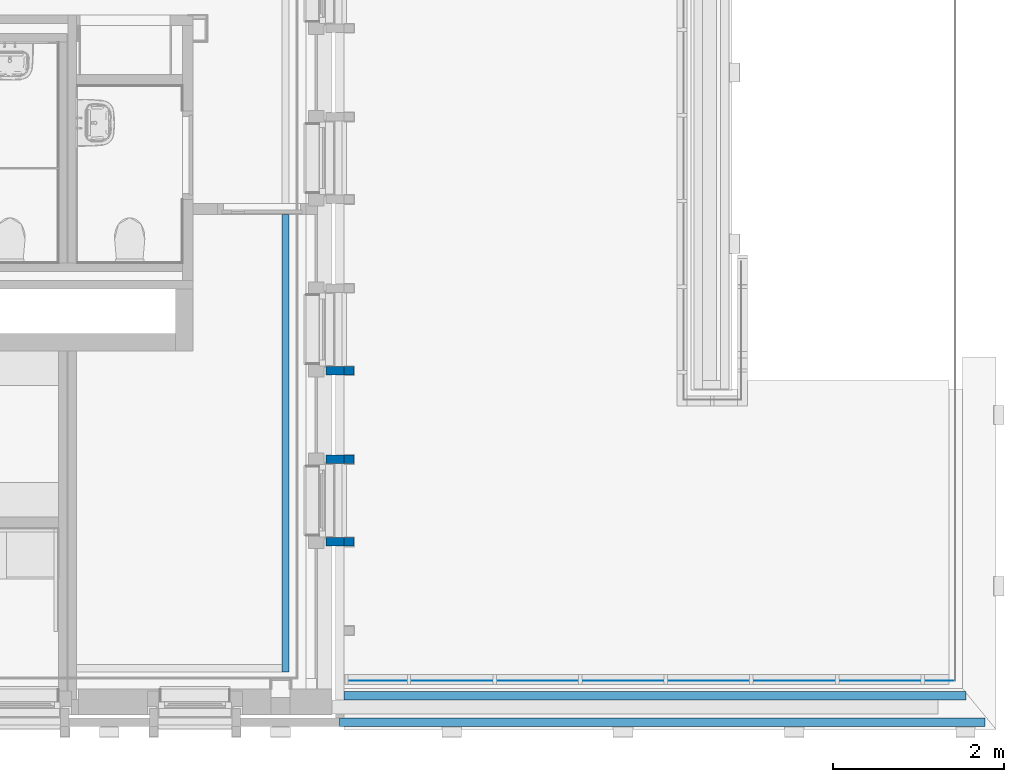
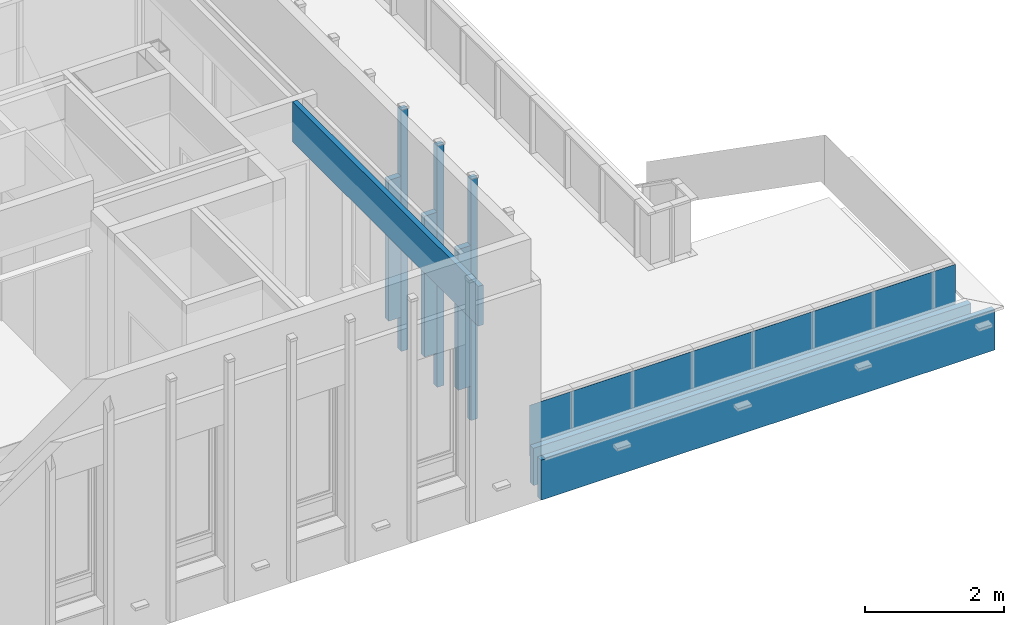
# One storey, part 42 of 118: 10 walls, 12 openings.
"""IFC2X3 building model written with IfcOpenShell, lengths in millimetres."""

from ifc_helpers import new_model, entity, si_unit, converted_unit, derived_unit, direction, frame, frame_2d, origin, place, context, subcontext, project, spatial, rectangle, extrude, faceted_brep, material, layer, layer_set, layer_usage, type_object, element, save


model = new_model("IFC2X3")

# Units and contexts
model_context = context("Model", 3, precision=0.01, world=origin(), true_north=direction((6.123031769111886e-17, 1.0)))
plan_context = context("Plan", 3, precision=0.01, world=origin(), true_north=direction((6.123031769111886e-17, 1.0)))
body_context = subcontext(model_context, "Body", "Model", "MODEL_VIEW")
ifc_project = project(units=[si_unit("LENGTHUNIT", "METRE", prefix="MILLI"), si_unit("AREAUNIT", "SQUARE_METRE"), si_unit("VOLUMEUNIT", "CUBIC_METRE"), converted_unit("PLANEANGLEUNIT", "DEGREE", entity("IfcRatioMeasure", 0.017453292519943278), si_unit("PLANEANGLEUNIT", "RADIAN"), dimensions=[0, 0, 0, 0, 0, 0, 0]), si_unit("MASSUNIT", "GRAM", prefix="KILO"), derived_unit("MASSDENSITYUNIT", [(si_unit("MASSUNIT", "GRAM", prefix="KILO"), 1), (si_unit("LENGTHUNIT", "METRE"), -3)]), derived_unit("IONCONCENTRATIONUNIT", [(si_unit("MASSUNIT", "GRAM", prefix="KILO"), 1), (si_unit("LENGTHUNIT", "METRE"), -3)]), derived_unit("MOMENTOFINERTIAUNIT", [(si_unit("LENGTHUNIT", "METRE"), 4)]), si_unit("TIMEUNIT", "SECOND"), si_unit("FREQUENCYUNIT", "HERTZ"), si_unit("THERMODYNAMICTEMPERATUREUNIT", "DEGREE_CELSIUS"), derived_unit("THERMALTRANSMITTANCEUNIT", [(si_unit("MASSUNIT", "GRAM", prefix="KILO"), 1), (si_unit("THERMODYNAMICTEMPERATUREUNIT", "KELVIN"), -1), (si_unit("TIMEUNIT", "SECOND"), -3)]), derived_unit("THERMALCONDUCTANCEUNIT", [(si_unit("MASSUNIT", "GRAM", prefix="KILO"), 1), (si_unit("THERMODYNAMICTEMPERATUREUNIT", "KELVIN"), -1), (si_unit("TIMEUNIT", "SECOND"), -3), (si_unit("LENGTHUNIT", "METRE"), 1)]), derived_unit("VOLUMETRICFLOWRATEUNIT", [(si_unit("LENGTHUNIT", "METRE"), 3), (si_unit("TIMEUNIT", "SECOND"), -1)]), derived_unit("MASSFLOWRATEUNIT", [(si_unit("MASSUNIT", "GRAM", prefix="KILO"), 1), (si_unit("TIMEUNIT", "SECOND"), -1)]), derived_unit("ROTATIONALFREQUENCYUNIT", [(si_unit("TIMEUNIT", "SECOND"), -1)]), si_unit("ELECTRICCURRENTUNIT", "AMPERE"), si_unit("ELECTRICVOLTAGEUNIT", "VOLT"), si_unit("POWERUNIT", "WATT"), si_unit("FORCEUNIT", "NEWTON", prefix="KILO"), si_unit("ILLUMINANCEUNIT", "LUX"), si_unit("LUMINOUSFLUXUNIT", "LUMEN"), si_unit("LUMINOUSINTENSITYUNIT", "CANDELA"), derived_unit("USERDEFINED", [(si_unit("MASSUNIT", "GRAM", prefix="KILO"), -1), (si_unit("LENGTHUNIT", "METRE"), -2), (si_unit("TIMEUNIT", "SECOND"), 3), (si_unit("LUMINOUSFLUXUNIT", "LUMEN"), 1)]), derived_unit("USERDEFINED", [(si_unit("MASSUNIT", "GRAM", prefix="KILO"), 1), (si_unit("TIMEUNIT", "SECOND"), -3), (si_unit("LENGTHUNIT", "METRE"), 3), (si_unit("ELECTRICCURRENTUNIT", "AMPERE"), -2)]), derived_unit("SOUNDPOWERUNIT", [(si_unit("MASSUNIT", "GRAM", prefix="KILO"), 1), (si_unit("TIMEUNIT", "SECOND"), -3), (si_unit("LENGTHUNIT", "METRE"), 2)]), derived_unit("SOUNDPRESSUREUNIT", [(si_unit("MASSUNIT", "GRAM", prefix="KILO"), 1), (si_unit("LENGTHUNIT", "METRE"), -1), (si_unit("TIMEUNIT", "SECOND"), -2)]), derived_unit("LINEARVELOCITYUNIT", [(si_unit("LENGTHUNIT", "METRE"), 1), (si_unit("TIMEUNIT", "SECOND"), -1)]), si_unit("PRESSUREUNIT", "PASCAL"), derived_unit("USERDEFINED", [(si_unit("MASSUNIT", "GRAM", prefix="KILO"), 1), (si_unit("LENGTHUNIT", "METRE"), -2), (si_unit("TIMEUNIT", "SECOND"), -2)]), derived_unit("LINEARFORCEUNIT", [(si_unit("MASSUNIT", "GRAM", prefix="KILO"), 1), (si_unit("TIMEUNIT", "SECOND"), -2)]), derived_unit("PLANARFORCEUNIT", [(si_unit("MASSUNIT", "GRAM", prefix="KILO"), 1), (si_unit("LENGTHUNIT", "METRE"), -1), (si_unit("TIMEUNIT", "SECOND"), -2)]), derived_unit("SPECIFICHEATCAPACITYUNIT", [(si_unit("THERMODYNAMICTEMPERATUREUNIT", "KELVIN"), -1), (si_unit("LENGTHUNIT", "METRE"), 2), (si_unit("TIMEUNIT", "SECOND"), -2)]), derived_unit("HEATINGVALUEUNIT", [(si_unit("LENGTHUNIT", "METRE"), 2), (si_unit("TIMEUNIT", "SECOND"), -2)]), derived_unit("VAPORPERMEABILITYUNIT", [(si_unit("LENGTHUNIT", "METRE"), -1), (si_unit("TIMEUNIT", "SECOND"), 1)]), derived_unit("DYNAMICVISCOSITYUNIT", [(si_unit("MASSUNIT", "GRAM", prefix="KILO"), 1), (si_unit("TIMEUNIT", "SECOND"), -1), (si_unit("LENGTHUNIT", "METRE"), -1)]), derived_unit("THERMALEXPANSIONCOEFFICIENTUNIT", [(si_unit("THERMODYNAMICTEMPERATUREUNIT", "KELVIN"), -1)]), derived_unit("MODULUSOFELASTICITYUNIT", [(si_unit("MASSUNIT", "GRAM", prefix="KILO"), 1), (si_unit("LENGTHUNIT", "METRE"), -1), (si_unit("TIMEUNIT", "SECOND"), -2)]), derived_unit("ISOTHERMALMOISTURECAPACITYUNIT", [(si_unit("LENGTHUNIT", "METRE"), 3), (si_unit("MASSUNIT", "GRAM", prefix="KILO"), -1)]), derived_unit("MOISTUREDIFFUSIVITYUNIT", [(si_unit("TIMEUNIT", "SECOND"), -1), (si_unit("LENGTHUNIT", "METRE"), 2)])], contexts=[model_context, plan_context])

# Site, building, storey
site_placement = place(None, origin())
site = spatial("IfcSite", under=ifc_project, at=site_placement, Name="Locatie", CompositionType="ELEMENT")
building_placement = place(site_placement, origin())
building = spatial("IfcBuilding", under=site, at=building_placement, Name="Bouwwerk", CompositionType="ELEMENT")
storey_placement = place(building_placement, frame((0.0, 0.0, 7800.0)))
storey = spatial("IfcBuildingStorey", under=building, at=storey_placement, Name="02 tweede verdieping", CompositionType="ELEMENT", Elevation=7800.000000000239)

# Walls
ifc_material_1 = material(Name="g2_metselwerk_geel licht")
ifc_layer_1 = layer(ifc_material_1, 100.0)
ifc_layer_set_1 = layer_set([ifc_layer_1], Name="Basic Wall:21_WA_metselwerk_licht_100_gen_bdg")
ifc_layer_usage_1 = layer_usage(ifc_layer_set_1, "AXIS2", "NEGATIVE", 50.0)
wall_type_1 = type_object("IfcWallType", Name="Basic Wall:21_WA_metselwerk_licht_100_gen_bdg", PredefinedType="STANDARD", material=ifc_layer_set_1)
wall_1_placement = place(storey_placement, frame((34830.0, 11718.0, 603.0)))
element("IfcWallStandardCase", 1, at=wall_1_placement, inside=storey, type_object=wall_type_1, material=ifc_layer_usage_1, Name="Basic Wall:21_WA_metselwerk_licht_100_gen_bdg", ObjectType="Basic Wall:21_WA_metselwerk_licht_100_gen_bdg", context=body_context, shape_type="SweptSolid", body=[
    extrude(rectangle(XDim=210.00000000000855, YDim=99.99999999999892, at=frame_2d((105.00000000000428, 1.4210854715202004e-13), x_axis=(-1.0, 0.0))), origin(), (0.0, 0.0, 1.0), 2471.999999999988),
])
wall_2_placement = place(storey_placement, frame((35040.0, 11718.0, 0.0)))
element("IfcWallStandardCase", 2, at=wall_2_placement, inside=storey, type_object=wall_type_1, material=ifc_layer_usage_1, Name="Basic Wall:21_WA_metselwerk_licht_100_gen_bdg", ObjectType="Basic Wall:21_WA_metselwerk_licht_100_gen_bdg", context=body_context, shape_type="SweptSolid", body=[
    extrude(rectangle(XDim=114.99999999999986, YDim=99.99999999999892, at=frame_2d((57.49999999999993, 6.679101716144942e-13), x_axis=(-1.0, 0.0))), origin(), (0.0, 0.0, 1.0), 4232.000000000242),
])
ifc_layer_usage_2 = layer_usage(ifc_layer_set_1, "AXIS2", "POSITIVE", -50.0)
wall_3_placement = place(storey_placement, frame((34830.0, 12682.0, 603.0)))
element("IfcWallStandardCase", 3, at=wall_3_placement, inside=storey, type_object=wall_type_1, material=ifc_layer_usage_2, Name="Basic Wall:21_WA_metselwerk_licht_100_gen_bdg", ObjectType="Basic Wall:21_WA_metselwerk_licht_100_gen_bdg", context=body_context, shape_type="SweptSolid", body=[
    extrude(rectangle(XDim=210.00000000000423, YDim=99.99999999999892, at=frame_2d((105.00000000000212, 5.435651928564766e-13), x_axis=(-1.0, 0.0))), origin(), (0.0, 0.0, 1.0), 2471.999999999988),
])
wall_4_placement = place(storey_placement, frame((35040.0, 12682.0, 0.0)))
element("IfcWallStandardCase", 4, at=wall_4_placement, inside=storey, type_object=wall_type_1, material=ifc_layer_usage_2, Name="Basic Wall:21_WA_metselwerk_licht_100_gen_bdg", ObjectType="Basic Wall:21_WA_metselwerk_licht_100_gen_bdg", context=body_context, shape_type="SweptSolid", body=[
    extrude(rectangle(XDim=114.99999999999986, YDim=99.99999999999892, at=frame_2d((57.49999999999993, 6.679101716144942e-13), x_axis=(-1.0, 0.0))), origin(), (0.0, 0.0, 1.0), 4231.99999999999),
])
wall_5_placement = place(storey_placement, frame((34830.0, 13718.0, 603.0)))
element("IfcWallStandardCase", 5, at=wall_5_placement, inside=storey, type_object=wall_type_1, material=ifc_layer_usage_1, Name="Basic Wall:21_WA_metselwerk_licht_100_gen_bdg", ObjectType="Basic Wall:21_WA_metselwerk_licht_100_gen_bdg", context=body_context, shape_type="SweptSolid", body=[
    extrude(rectangle(XDim=210.00000000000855, YDim=99.99999999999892, at=frame_2d((105.00000000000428, 1.4210854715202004e-13), x_axis=(-1.0, 0.0))), origin(), (0.0, 0.0, 1.0), 2471.999999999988),
])
wall_6_placement = place(storey_placement, frame((35040.0, 13718.0, 0.0)))
element("IfcWallStandardCase", 6, at=wall_6_placement, inside=storey, type_object=wall_type_1, material=ifc_layer_usage_1, Name="Basic Wall:21_WA_metselwerk_licht_100_gen_bdg", ObjectType="Basic Wall:21_WA_metselwerk_licht_100_gen_bdg", context=body_context, shape_type="SweptSolid", body=[
    extrude(rectangle(XDim=114.99999999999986, YDim=99.99999999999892, at=frame_2d((57.49999999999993, 6.679101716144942e-13), x_axis=(-1.0, 0.0))), origin(), (0.0, 0.0, 1.0), 4232.000000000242),
])

# Wall, openings
wall_7_placement = place(storey_placement, frame((42525.0, 9610.0, -100.0), z_axis=(0.0, 0.0, 1.0), x_axis=(-1.0, 0.0, 0.0)))
wall_7 = element("IfcWallStandardCase", 7, at=wall_7_placement, inside=storey, type_object=wall_type_1, material=ifc_layer_usage_1, Name="Basic Wall:21_WA_metselwerk_licht_100_gen_bdg", ObjectType="Basic Wall:21_WA_metselwerk_licht_100_gen_bdg", context=body_context, shape_type="SweptSolid", body=[
    extrude(rectangle(XDim=7535.000000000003, YDim=100.0000000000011, at=frame_2d((3767.5000000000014, 2.0250467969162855e-13), x_axis=(-1.0, 0.0))), origin(), (0.0, 0.0, 1.0), 702.9999999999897),
])
opening_1_placement = place(wall_7_placement, frame((15781.0, 50.0, 703.0)))
element("IfcOpeningElement", 8, at=opening_1_placement, cuts=wall_7, Name="Basic Wall:21_WA_metselwerk_licht_100_gen_bdg", ObjectType="Opening", context=body_context, shape_type="Brep", body=[
    faceted_brep([(-24.0, -100.0, 2472.0), (-103.0, -100.0, 2472.0), (-103.0, -100.0, 42.0), (-1009.0, -100.0, 42.0), (-1009.0, -100.0, 2472.0), (-1088.0, -100.0, 2472.0), (-1088.0, -100.0, 0.0), (-24.0, -100.0, 0.0), (-1088.0, 0.0, 2472.0), (-24.0, 0.0, 2472.0), (-24.0, 0.0, 0.0), (-1088.0, 0.0, 0.0), (-1112.0, -415.0, 2594.0), (-1112.0, -415.0, 11.0), (0.0, -415.0, 11.0), (0.0, -415.0, 2594.0), (-964.0, -415.0, 2443.0), (-148.0, -415.0, 2443.0), (-148.0, -415.0, 87.0), (-964.0, -415.0, 87.0), (-1112.0, -140.0, 2594.0), (0.0, -140.0, 2594.0), (0.0, -140.0, 11.0), (-1112.0, -140.0, 11.0), (-1009.0, -140.0, 42.0), (-103.0, -140.0, 42.0), (-103.0, -140.0, 2508.0), (-1009.0, -140.0, 2508.0), (-103.0, -100.0, 2508.0), (-1009.0, -100.0, 2508.0), (-964.0, -615.0, 2443.0), (-964.0, -615.0, 87.0), (-148.0, -615.0, 87.0), (-148.0, -615.0, 2443.0)], [[[0, 1, 2, 3, 4, 5, 6, 7]], [[8, 9, 10, 11]], [[5, 8, 11, 6]], [[6, 11, 10, 7]], [[7, 10, 9, 0]], [[8, 5, 4, 1, 0, 9]], [[12, 13, 14, 15], [16, 17, 18, 19]], [[20, 21, 22, 23], [24, 25, 26, 27]], [[12, 20, 23, 13]], [[13, 23, 22, 14]], [[14, 22, 21, 15]], [[15, 21, 20, 12]], [[28, 1, 4, 29]], [[24, 27, 29, 4, 3]], [[3, 2, 25, 24]], [[2, 1, 28, 26, 25]], [[29, 27, 26, 28]], [[30, 31, 32, 33]], [[30, 16, 19, 31]], [[31, 19, 18, 32]], [[32, 18, 17, 33]], [[33, 17, 16, 30]]]),
])
opening_2_placement = place(wall_7_placement, frame((17781.0, 50.0, 703.0)))
element("IfcOpeningElement", 9, at=opening_2_placement, cuts=wall_7, Name="Basic Wall:21_WA_metselwerk_licht_100_gen_bdg", ObjectType="Opening", context=body_context, shape_type="Brep", body=[
    faceted_brep([(-24.0, -100.0, 2472.0), (-103.0, -100.0, 2472.0), (-103.0, -100.0, 42.0), (-1009.0, -100.0, 42.0), (-1009.0, -100.0, 2472.0), (-1088.0, -100.0, 2472.0), (-1088.0, -100.0, 0.0), (-24.0, -100.0, 0.0), (-1088.0, 0.0, 2472.0), (-24.0, 0.0, 2472.0), (-24.0, 0.0, 0.0), (-1088.0, 0.0, 0.0), (-1112.0, -415.0, 2594.0), (-1112.0, -415.0, 11.0), (0.0, -415.0, 11.0), (0.0, -415.0, 2594.0), (-964.0, -415.0, 2443.0), (-148.0, -415.0, 2443.0), (-148.0, -415.0, 87.0), (-964.0, -415.0, 87.0), (-1112.0, -140.0, 2594.0), (0.0, -140.0, 2594.0), (0.0, -140.0, 11.0), (-1112.0, -140.0, 11.0), (-1009.0, -140.0, 42.0), (-103.0, -140.0, 42.0), (-103.0, -140.0, 2508.0), (-1009.0, -140.0, 2508.0), (-103.0, -100.0, 2508.0), (-1009.0, -100.0, 2508.0), (-964.0, -615.0, 2443.0), (-964.0, -615.0, 87.0), (-148.0, -615.0, 87.0), (-148.0, -615.0, 2443.0)], [[[0, 1, 2, 3, 4, 5, 6, 7]], [[8, 9, 10, 11]], [[5, 8, 11, 6]], [[6, 11, 10, 7]], [[7, 10, 9, 0]], [[8, 5, 4, 1, 0, 9]], [[12, 13, 14, 15], [16, 17, 18, 19]], [[20, 21, 22, 23], [24, 25, 26, 27]], [[12, 20, 23, 13]], [[13, 23, 22, 14]], [[14, 22, 21, 15]], [[15, 21, 20, 12]], [[28, 1, 4, 29]], [[24, 27, 29, 4, 3]], [[3, 2, 25, 24]], [[2, 1, 28, 26, 25]], [[29, 27, 26, 28]], [[30, 31, 32, 33]], [[30, 16, 19, 31]], [[31, 19, 18, 32]], [[32, 18, 17, 33]], [[33, 17, 16, 30]]]),
])
opening_3_placement = place(wall_7_placement, frame((19781.0, 50.0, 703.0)))
element("IfcOpeningElement", 10, at=opening_3_placement, cuts=wall_7, Name="Basic Wall:21_WA_metselwerk_licht_100_gen_bdg", ObjectType="Opening", context=body_context, shape_type="Brep", body=[
    faceted_brep([(-24.0, -100.0, 2472.0), (-103.0, -100.0, 2472.0), (-103.0, -100.0, 42.0), (-1009.0, -100.0, 42.0), (-1009.0, -100.0, 2472.0), (-1088.0, -100.0, 2472.0), (-1088.0, -100.0, 0.0), (-24.0, -100.0, 0.0), (-1088.0, 0.0, 2472.0), (-24.0, 0.0, 2472.0), (-24.0, 0.0, 0.0), (-1088.0, 0.0, 0.0), (-1112.0, -415.0, 2594.0), (-1112.0, -415.0, 11.0), (0.0, -415.0, 11.0), (0.0, -415.0, 2594.0), (-964.0, -415.0, 2443.0), (-148.0, -415.0, 2443.0), (-148.0, -415.0, 87.0), (-964.0, -415.0, 87.0), (-1112.0, -140.0, 2594.0), (0.0, -140.0, 2594.0), (0.0, -140.0, 11.0), (-1112.0, -140.0, 11.0), (-1009.0, -140.0, 42.0), (-103.0, -140.0, 42.0), (-103.0, -140.0, 2508.0), (-1009.0, -140.0, 2508.0), (-103.0, -100.0, 2508.0), (-1009.0, -100.0, 2508.0), (-964.0, -615.0, 2443.0), (-964.0, -615.0, 87.0), (-148.0, -615.0, 87.0), (-148.0, -615.0, 2443.0)], [[[0, 1, 2, 3, 4, 5, 6, 7]], [[8, 9, 10, 11]], [[5, 8, 11, 6]], [[6, 11, 10, 7]], [[7, 10, 9, 0]], [[8, 5, 4, 1, 0, 9]], [[12, 13, 14, 15], [16, 17, 18, 19]], [[20, 21, 22, 23], [24, 25, 26, 27]], [[12, 20, 23, 13]], [[13, 23, 22, 14]], [[14, 22, 21, 15]], [[15, 21, 20, 12]], [[28, 1, 4, 29]], [[24, 27, 29, 4, 3]], [[3, 2, 25, 24]], [[2, 1, 28, 26, 25]], [[29, 27, 26, 28]], [[30, 31, 32, 33]], [[30, 16, 19, 31]], [[31, 19, 18, 32]], [[32, 18, 17, 33]], [[33, 17, 16, 30]]]),
])
opening_4_placement = place(wall_7_placement, frame((9781.0, 50.0, 703.0)))
element("IfcOpeningElement", 11, at=opening_4_placement, cuts=wall_7, Name="Basic Wall:21_WA_metselwerk_licht_100_gen_bdg", ObjectType="Opening", context=body_context, shape_type="Brep", body=[
    faceted_brep([(-24.0, -100.0, 2472.0), (-103.0, -100.0, 2472.0), (-103.0, -100.0, 42.0), (-1009.0, -100.0, 42.0), (-1009.0, -100.0, 2472.0), (-1088.0, -100.0, 2472.0), (-1088.0, -100.0, 0.0), (-24.0, -100.0, 0.0), (-1088.0, 0.0, 2472.0), (-24.0, 0.0, 2472.0), (-24.0, 0.0, 0.0), (-1088.0, 0.0, 0.0), (-1112.0, -415.0, 2594.0), (-1112.0, -415.0, 11.0), (0.0, -415.0, 11.0), (0.0, -415.0, 2594.0), (-964.0, -415.0, 2443.0), (-148.0, -415.0, 2443.0), (-148.0, -415.0, 87.0), (-964.0, -415.0, 87.0), (-1112.0, -140.0, 2594.0), (0.0, -140.0, 2594.0), (0.0, -140.0, 11.0), (-1112.0, -140.0, 11.0), (-1009.0, -140.0, 42.0), (-103.0, -140.0, 42.0), (-103.0, -140.0, 2508.0), (-1009.0, -140.0, 2508.0), (-103.0, -100.0, 2508.0), (-1009.0, -100.0, 2508.0), (-964.0, -615.0, 2443.0), (-964.0, -615.0, 87.0), (-148.0, -615.0, 87.0), (-148.0, -615.0, 2443.0)], [[[0, 1, 2, 3, 4, 5, 6, 7]], [[8, 9, 10, 11]], [[5, 8, 11, 6]], [[6, 11, 10, 7]], [[7, 10, 9, 0]], [[8, 5, 4, 1, 0, 9]], [[12, 13, 14, 15], [16, 17, 18, 19]], [[20, 21, 22, 23], [24, 25, 26, 27]], [[12, 20, 23, 13]], [[13, 23, 22, 14]], [[14, 22, 21, 15]], [[15, 21, 20, 12]], [[28, 1, 4, 29]], [[24, 27, 29, 4, 3]], [[3, 2, 25, 24]], [[2, 1, 28, 26, 25]], [[29, 27, 26, 28]], [[30, 31, 32, 33]], [[30, 16, 19, 31]], [[31, 19, 18, 32]], [[32, 18, 17, 33]], [[33, 17, 16, 30]]]),
])
opening_5_placement = place(wall_7_placement, frame((11781.0, 50.0, 703.0)))
element("IfcOpeningElement", 12, at=opening_5_placement, cuts=wall_7, Name="Basic Wall:21_WA_metselwerk_licht_100_gen_bdg", ObjectType="Opening", context=body_context, shape_type="Brep", body=[
    faceted_brep([(-24.0, -100.0, 2472.0), (-103.0, -100.0, 2472.0), (-103.0, -100.0, 42.0), (-1009.0, -100.0, 42.0), (-1009.0, -100.0, 2472.0), (-1088.0, -100.0, 2472.0), (-1088.0, -100.0, 0.0), (-24.0, -100.0, 0.0), (-1088.0, 0.0, 2472.0), (-24.0, 0.0, 2472.0), (-24.0, 0.0, 0.0), (-1088.0, 0.0, 0.0), (-1112.0, -415.0, 2594.0), (-1112.0, -415.0, 11.0), (0.0, -415.0, 11.0), (0.0, -415.0, 2594.0), (-964.0, -415.0, 2443.0), (-148.0, -415.0, 2443.0), (-148.0, -415.0, 87.0), (-964.0, -415.0, 87.0), (-1112.0, -140.0, 2594.0), (0.0, -140.0, 2594.0), (0.0, -140.0, 11.0), (-1112.0, -140.0, 11.0), (-1009.0, -140.0, 42.0), (-103.0, -140.0, 42.0), (-103.0, -140.0, 2508.0), (-1009.0, -140.0, 2508.0), (-103.0, -100.0, 2508.0), (-1009.0, -100.0, 2508.0), (-964.0, -615.0, 2443.0), (-964.0, -615.0, 87.0), (-148.0, -615.0, 87.0), (-148.0, -615.0, 2443.0)], [[[0, 1, 2, 3, 4, 5, 6, 7]], [[8, 9, 10, 11]], [[5, 8, 11, 6]], [[6, 11, 10, 7]], [[7, 10, 9, 0]], [[8, 5, 4, 1, 0, 9]], [[12, 13, 14, 15], [16, 17, 18, 19]], [[20, 21, 22, 23], [24, 25, 26, 27]], [[12, 20, 23, 13]], [[13, 23, 22, 14]], [[14, 22, 21, 15]], [[15, 21, 20, 12]], [[28, 1, 4, 29]], [[24, 27, 29, 4, 3]], [[3, 2, 25, 24]], [[2, 1, 28, 26, 25]], [[29, 27, 26, 28]], [[30, 31, 32, 33]], [[30, 16, 19, 31]], [[31, 19, 18, 32]], [[32, 18, 17, 33]], [[33, 17, 16, 30]]]),
])
opening_6_placement = place(wall_7_placement, frame((13781.0, 50.0, 703.0)))
element("IfcOpeningElement", 13, at=opening_6_placement, cuts=wall_7, Name="Basic Wall:21_WA_metselwerk_licht_100_gen_bdg", ObjectType="Opening", context=body_context, shape_type="Brep", body=[
    faceted_brep([(-24.0, -100.0, 2472.0), (-103.0, -100.0, 2472.0), (-103.0, -100.0, 42.0), (-1009.0, -100.0, 42.0), (-1009.0, -100.0, 2472.0), (-1088.0, -100.0, 2472.0), (-1088.0, -100.0, 0.0), (-24.0, -100.0, 0.0), (-1088.0, 0.0, 2472.0), (-24.0, 0.0, 2472.0), (-24.0, 0.0, 0.0), (-1088.0, 0.0, 0.0), (-1112.0, -415.0, 2594.0), (-1112.0, -415.0, 11.0), (0.0, -415.0, 11.0), (0.0, -415.0, 2594.0), (-964.0, -415.0, 2443.0), (-148.0, -415.0, 2443.0), (-148.0, -415.0, 87.0), (-964.0, -415.0, 87.0), (-1112.0, -140.0, 2594.0), (0.0, -140.0, 2594.0), (0.0, -140.0, 11.0), (-1112.0, -140.0, 11.0), (-1009.0, -140.0, 42.0), (-103.0, -140.0, 42.0), (-103.0, -140.0, 2508.0), (-1009.0, -140.0, 2508.0), (-103.0, -100.0, 2508.0), (-1009.0, -100.0, 2508.0), (-964.0, -615.0, 2443.0), (-964.0, -615.0, 87.0), (-148.0, -615.0, 87.0), (-148.0, -615.0, 2443.0)], [[[0, 1, 2, 3, 4, 5, 6, 7]], [[8, 9, 10, 11]], [[5, 8, 11, 6]], [[6, 11, 10, 7]], [[7, 10, 9, 0]], [[8, 5, 4, 1, 0, 9]], [[12, 13, 14, 15], [16, 17, 18, 19]], [[20, 21, 22, 23], [24, 25, 26, 27]], [[12, 20, 23, 13]], [[13, 23, 22, 14]], [[14, 22, 21, 15]], [[15, 21, 20, 12]], [[28, 1, 4, 29]], [[24, 27, 29, 4, 3]], [[3, 2, 25, 24]], [[2, 1, 28, 26, 25]], [[29, 27, 26, 28]], [[30, 31, 32, 33]], [[30, 16, 19, 31]], [[31, 19, 18, 32]], [[32, 18, 17, 33]], [[33, 17, 16, 30]]]),
])
opening_7_placement = place(wall_7_placement, frame((21781.0, 50.0, 703.0)))
element("IfcOpeningElement", 14, at=opening_7_placement, cuts=wall_7, Name="Basic Wall:21_WA_metselwerk_licht_100_gen_bdg", ObjectType="Opening", context=body_context, shape_type="Brep", body=[
    faceted_brep([(-24.0, -100.0, 2472.0), (-103.0, -100.0, 2472.0), (-103.0, -100.0, 42.0), (-1009.0, -100.0, 42.0), (-1009.0, -100.0, 2472.0), (-1088.0, -100.0, 2472.0), (-1088.0, -100.0, 0.0), (-24.0, -100.0, 0.0), (-1088.0, 0.0, 2472.0), (-24.0, 0.0, 2472.0), (-24.0, 0.0, 0.0), (-1088.0, 0.0, 0.0), (-1112.0, -415.0, 2594.0), (-1112.0, -415.0, 11.0), (0.0, -415.0, 11.0), (0.0, -415.0, 2594.0), (-964.0, -415.0, 2443.0), (-148.0, -415.0, 2443.0), (-148.0, -415.0, 87.0), (-964.0, -415.0, 87.0), (-1112.0, -140.0, 2594.0), (0.0, -140.0, 2594.0), (0.0, -140.0, 11.0), (-1112.0, -140.0, 11.0), (-1009.0, -140.0, 42.0), (-103.0, -140.0, 42.0), (-103.0, -140.0, 2508.0), (-1009.0, -140.0, 2508.0), (-103.0, -100.0, 2508.0), (-1009.0, -100.0, 2508.0), (-964.0, -615.0, 2443.0), (-964.0, -615.0, 87.0), (-148.0, -615.0, 87.0), (-148.0, -615.0, 2443.0)], [[[0, 1, 2, 3, 4, 5, 6, 7]], [[8, 9, 10, 11]], [[5, 8, 11, 6]], [[6, 11, 10, 7]], [[7, 10, 9, 0]], [[8, 5, 4, 1, 0, 9]], [[12, 13, 14, 15], [16, 17, 18, 19]], [[20, 21, 22, 23], [24, 25, 26, 27]], [[12, 20, 23, 13]], [[13, 23, 22, 14]], [[14, 22, 21, 15]], [[15, 21, 20, 12]], [[28, 1, 4, 29]], [[24, 27, 29, 4, 3]], [[3, 2, 25, 24]], [[2, 1, 28, 26, 25]], [[29, 27, 26, 28]], [[30, 31, 32, 33]], [[30, 16, 19, 31]], [[31, 19, 18, 32]], [[32, 18, 17, 33]], [[33, 17, 16, 30]]]),
])
opening_8_placement = place(wall_7_placement, frame((23781.0, 50.0, 703.0)))
element("IfcOpeningElement", 15, at=opening_8_placement, cuts=wall_7, Name="Basic Wall:21_WA_metselwerk_licht_100_gen_bdg", ObjectType="Opening", context=body_context, shape_type="Brep", body=[
    faceted_brep([(-24.0, -100.0, 2472.0), (-103.0, -100.0, 2472.0), (-103.0, -100.0, 42.0), (-1009.0, -100.0, 42.0), (-1009.0, -100.0, 2472.0), (-1088.0, -100.0, 2472.0), (-1088.0, -100.0, 0.0), (-24.0, -100.0, 0.0), (-1088.0, 0.0, 2472.0), (-24.0, 0.0, 2472.0), (-24.0, 0.0, 0.0), (-1088.0, 0.0, 0.0), (-1112.0, -415.0, 2594.0), (-1112.0, -415.0, 11.0), (0.0, -415.0, 11.0), (0.0, -415.0, 2594.0), (-964.0, -415.0, 2443.0), (-148.0, -415.0, 2443.0), (-148.0, -415.0, 87.0), (-964.0, -415.0, 87.0), (-1112.0, -140.0, 2594.0), (0.0, -140.0, 2594.0), (0.0, -140.0, 11.0), (-1112.0, -140.0, 11.0), (-1009.0, -140.0, 42.0), (-103.0, -140.0, 42.0), (-103.0, -140.0, 2508.0), (-1009.0, -140.0, 2508.0), (-103.0, -100.0, 2508.0), (-1009.0, -100.0, 2508.0), (-964.0, -615.0, 2443.0), (-964.0, -615.0, 87.0), (-148.0, -615.0, 87.0), (-148.0, -615.0, 2443.0)], [[[0, 1, 2, 3, 4, 5, 6, 7]], [[8, 9, 10, 11]], [[5, 8, 11, 6]], [[6, 11, 10, 7]], [[7, 10, 9, 0]], [[8, 5, 4, 1, 0, 9]], [[12, 13, 14, 15], [16, 17, 18, 19]], [[20, 21, 22, 23], [24, 25, 26, 27]], [[12, 20, 23, 13]], [[13, 23, 22, 14]], [[14, 22, 21, 15]], [[15, 21, 20, 12]], [[28, 1, 4, 29]], [[24, 27, 29, 4, 3]], [[3, 2, 25, 24]], [[2, 1, 28, 26, 25]], [[29, 27, 26, 28]], [[30, 31, 32, 33]], [[30, 16, 19, 31]], [[31, 19, 18, 32]], [[32, 18, 17, 33]], [[33, 17, 16, 30]]]),
])
opening_9_placement = place(wall_7_placement, frame((25781.0, 50.0, 703.0)))
element("IfcOpeningElement", 16, at=opening_9_placement, cuts=wall_7, Name="Basic Wall:21_WA_metselwerk_licht_100_gen_bdg", ObjectType="Opening", context=body_context, shape_type="Brep", body=[
    faceted_brep([(-24.0, -100.0, 2472.0), (-103.0, -100.0, 2472.0), (-103.0, -100.0, 42.0), (-1009.0, -100.0, 42.0), (-1009.0, -100.0, 2472.0), (-1088.0, -100.0, 2472.0), (-1088.0, -100.0, 0.0), (-24.0, -100.0, 0.0), (-1088.0, 0.0, 2472.0), (-24.0, 0.0, 2472.0), (-24.0, 0.0, 0.0), (-1088.0, 0.0, 0.0), (-1112.0, -415.0, 2594.0), (-1112.0, -415.0, 11.0), (0.0, -415.0, 11.0), (0.0, -415.0, 2594.0), (-964.0, -415.0, 2443.0), (-148.0, -415.0, 2443.0), (-148.0, -415.0, 87.0), (-964.0, -415.0, 87.0), (-1112.0, -140.0, 2594.0), (0.0, -140.0, 2594.0), (0.0, -140.0, 11.0), (-1112.0, -140.0, 11.0), (-1009.0, -140.0, 42.0), (-103.0, -140.0, 42.0), (-103.0, -140.0, 2508.0), (-1009.0, -140.0, 2508.0), (-103.0, -100.0, 2508.0), (-1009.0, -100.0, 2508.0), (-964.0, -615.0, 2443.0), (-964.0, -615.0, 87.0), (-148.0, -615.0, 87.0), (-148.0, -615.0, 2443.0)], [[[0, 1, 2, 3, 4, 5, 6, 7]], [[8, 9, 10, 11]], [[5, 8, 11, 6]], [[6, 11, 10, 7]], [[7, 10, 9, 0]], [[8, 5, 4, 1, 0, 9]], [[12, 13, 14, 15], [16, 17, 18, 19]], [[20, 21, 22, 23], [24, 25, 26, 27]], [[12, 20, 23, 13]], [[13, 23, 22, 14]], [[14, 22, 21, 15]], [[15, 21, 20, 12]], [[28, 1, 4, 29]], [[24, 27, 29, 4, 3]], [[3, 2, 25, 24]], [[2, 1, 28, 26, 25]], [[29, 27, 26, 28]], [[30, 31, 32, 33]], [[30, 16, 19, 31]], [[31, 19, 18, 32]], [[32, 18, 17, 33]], [[33, 17, 16, 30]]]),
])
opening_10_placement = place(wall_7_placement, frame((27781.0, 50.0, 703.0)))
element("IfcOpeningElement", 17, at=opening_10_placement, cuts=wall_7, Name="Basic Wall:21_WA_metselwerk_licht_100_gen_bdg", ObjectType="Opening", context=body_context, shape_type="Brep", body=[
    faceted_brep([(-24.0, -100.0, 2472.0), (-103.0, -100.0, 2472.0), (-103.0, -100.0, 42.0), (-1009.0, -100.0, 42.0), (-1009.0, -100.0, 2472.0), (-1088.0, -100.0, 2472.0), (-1088.0, -100.0, 0.0), (-24.0, -100.0, 0.0), (-1088.0, 0.0, 2472.0), (-24.0, 0.0, 2472.0), (-24.0, 0.0, 0.0), (-1088.0, 0.0, 0.0), (-1112.0, -415.0, 2594.0), (-1112.0, -415.0, 11.0), (0.0, -415.0, 11.0), (0.0, -415.0, 2594.0), (-964.0, -415.0, 2443.0), (-148.0, -415.0, 2443.0), (-148.0, -415.0, 87.0), (-964.0, -415.0, 87.0), (-1112.0, -140.0, 2594.0), (0.0, -140.0, 2594.0), (0.0, -140.0, 11.0), (-1112.0, -140.0, 11.0), (-1009.0, -140.0, 42.0), (-103.0, -140.0, 42.0), (-103.0, -140.0, 2508.0), (-1009.0, -140.0, 2508.0), (-103.0, -100.0, 2508.0), (-1009.0, -100.0, 2508.0), (-964.0, -615.0, 2443.0), (-964.0, -615.0, 87.0), (-148.0, -615.0, 87.0), (-148.0, -615.0, 2443.0)], [[[0, 1, 2, 3, 4, 5, 6, 7]], [[8, 9, 10, 11]], [[5, 8, 11, 6]], [[6, 11, 10, 7]], [[7, 10, 9, 0]], [[8, 5, 4, 1, 0, 9]], [[12, 13, 14, 15], [16, 17, 18, 19]], [[20, 21, 22, 23], [24, 25, 26, 27]], [[12, 20, 23, 13]], [[13, 23, 22, 14]], [[14, 22, 21, 15]], [[15, 21, 20, 12]], [[28, 1, 4, 29]], [[24, 27, 29, 4, 3]], [[3, 2, 25, 24]], [[2, 1, 28, 26, 25]], [[29, 27, 26, 28]], [[30, 31, 32, 33]], [[30, 16, 19, 31]], [[31, 19, 18, 32]], [[32, 18, 17, 33]], [[33, 17, 16, 30]]]),
])
opening_11_placement = place(wall_7_placement, frame((29781.0, 50.0, 703.0)))
element("IfcOpeningElement", 18, at=opening_11_placement, cuts=wall_7, Name="Basic Wall:21_WA_metselwerk_licht_100_gen_bdg", ObjectType="Opening", context=body_context, shape_type="Brep", body=[
    faceted_brep([(-24.0, -100.0, 2472.0), (-103.0, -100.0, 2472.0), (-103.0, -100.0, 42.0), (-1009.0, -100.0, 42.0), (-1009.0, -100.0, 2472.0), (-1088.0, -100.0, 2472.0), (-1088.0, -100.0, 0.0), (-24.0, -100.0, 0.0), (-1088.0, 0.0, 2472.0), (-24.0, 0.0, 2472.0), (-24.0, 0.0, 0.0), (-1088.0, 0.0, 0.0), (-1112.0, -415.0, 2594.0), (-1112.0, -415.0, 11.0), (0.0, -415.0, 11.0), (0.0, -415.0, 2594.0), (-964.0, -415.0, 2443.0), (-148.0, -415.0, 2443.0), (-148.0, -415.0, 87.0), (-964.0, -415.0, 87.0), (-1112.0, -140.0, 2594.0), (0.0, -140.0, 2594.0), (0.0, -140.0, 11.0), (-1112.0, -140.0, 11.0), (-1009.0, -140.0, 42.0), (-103.0, -140.0, 42.0), (-103.0, -140.0, 2508.0), (-1009.0, -140.0, 2508.0), (-103.0, -100.0, 2508.0), (-1009.0, -100.0, 2508.0), (-964.0, -615.0, 2443.0), (-964.0, -615.0, 87.0), (-148.0, -615.0, 87.0), (-148.0, -615.0, 2443.0)], [[[0, 1, 2, 3, 4, 5, 6, 7]], [[8, 9, 10, 11]], [[5, 8, 11, 6]], [[6, 11, 10, 7]], [[7, 10, 9, 0]], [[8, 5, 4, 1, 0, 9]], [[12, 13, 14, 15], [16, 17, 18, 19]], [[20, 21, 22, 23], [24, 25, 26, 27]], [[12, 20, 23, 13]], [[13, 23, 22, 14]], [[14, 22, 21, 15]], [[15, 21, 20, 12]], [[28, 1, 4, 29]], [[24, 27, 29, 4, 3]], [[3, 2, 25, 24]], [[2, 1, 28, 26, 25]], [[29, 27, 26, 28]], [[30, 31, 32, 33]], [[30, 16, 19, 31]], [[31, 19, 18, 32]], [[32, 18, 17, 33]], [[33, 17, 16, 30]]]),
])
opening_12_placement = place(wall_7_placement, frame((31781.0, 50.0, 703.0)))
element("IfcOpeningElement", 19, at=opening_12_placement, cuts=wall_7, Name="Basic Wall:21_WA_metselwerk_licht_100_gen_bdg", ObjectType="Opening", context=body_context, shape_type="Brep", body=[
    faceted_brep([(-24.0, -100.0, 2472.0), (-103.0, -100.0, 2472.0), (-103.0, -100.0, 42.0), (-1009.0, -100.0, 42.0), (-1009.0, -100.0, 2472.0), (-1088.0, -100.0, 2472.0), (-1088.0, -100.0, 0.0), (-24.0, -100.0, 0.0), (-1088.0, 0.0, 2472.0), (-24.0, 0.0, 2472.0), (-24.0, 0.0, 0.0), (-1088.0, 0.0, 0.0), (-1112.0, -415.0, 2594.0), (-1112.0, -415.0, 11.0), (0.0, -415.0, 11.0), (0.0, -415.0, 2594.0), (-964.0, -415.0, 2443.0), (-148.0, -415.0, 2443.0), (-148.0, -415.0, 87.0), (-964.0, -415.0, 87.0), (-1112.0, -140.0, 2594.0), (0.0, -140.0, 2594.0), (0.0, -140.0, 11.0), (-1112.0, -140.0, 11.0), (-1009.0, -140.0, 42.0), (-103.0, -140.0, 42.0), (-103.0, -140.0, 2508.0), (-1009.0, -140.0, 2508.0), (-103.0, -100.0, 2508.0), (-1009.0, -100.0, 2508.0), (-964.0, -615.0, 2443.0), (-964.0, -615.0, 87.0), (-148.0, -615.0, 87.0), (-148.0, -615.0, 2443.0)], [[[0, 1, 2, 3, 4, 5, 6, 7]], [[8, 9, 10, 11]], [[5, 8, 11, 6]], [[6, 11, 10, 7]], [[7, 10, 9, 0]], [[8, 5, 4, 1, 0, 9]], [[12, 13, 14, 15], [16, 17, 18, 19]], [[20, 21, 22, 23], [24, 25, 26, 27]], [[12, 20, 23, 13]], [[13, 23, 22, 14]], [[14, 22, 21, 15]], [[15, 21, 20, 12]], [[28, 1, 4, 29]], [[24, 27, 29, 4, 3]], [[3, 2, 25, 24]], [[2, 1, 28, 26, 25]], [[29, 27, 26, 28]], [[30, 31, 32, 33]], [[30, 16, 19, 31]], [[31, 19, 18, 32]], [[32, 18, 17, 33]], [[33, 17, 16, 30]]]),
])

# Walls
wall_8_placement = place(storey_placement, frame((35040.0, 9920.0, -50.0)))
element("IfcWallStandardCase", 20, at=wall_8_placement, inside=storey, type_object=wall_type_1, material=ifc_layer_usage_1, Name="Basic Wall:21_WA_metselwerk_licht_100_gen_bdg", ObjectType="Basic Wall:21_WA_metselwerk_licht_100_gen_bdg", context=body_context, shape_type="SweptSolid", body=[
    extrude(rectangle(XDim=7264.999999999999, YDim=99.99999999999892, at=frame_2d((3632.4999999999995, 1.3500311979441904e-13), x_axis=(-1.0, 0.0))), origin(), (0.0, 0.0, 1.0), 652.9999999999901),
])
ifc_material_2 = material(Name="f7_gipsvezel")
ifc_layer_2 = layer(ifc_material_2, 13.000000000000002)
ifc_material_3 = material(Name="ISR_Luchtspouw")
ifc_layer_3 = layer(ifc_material_3, 71.0)
ifc_layer_set_2 = layer_set([ifc_layer_2, ifc_layer_3], Name="Basic Wall:22_WA_koof_83 12-71")
ifc_layer_usage_3 = layer_usage(ifc_layer_set_2, "AXIS2", "NEGATIVE", 41.99999999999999)
wall_type_2 = type_object("IfcWallType", Name="Basic Wall:22_WA_koof_83 12-71", PredefinedType="STANDARD", material=ifc_layer_set_2)
wall_9_placement = place(storey_placement, frame((34358.0, 15544.500008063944, 2800.0), z_axis=(0.0, 0.0, 1.0), x_axis=(0.0, -1.0, 0.0)))
element("IfcWallStandardCase", 21, at=wall_9_placement, inside=storey, type_object=wall_type_2, material=ifc_layer_usage_3, Name="Basic Wall:22_WA_koof_83 12-71", ObjectType="Basic Wall:22_WA_koof_83 12-71", context=body_context, shape_type="SweptSolid", body=[
    extrude(rectangle(XDim=5344.500008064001, YDim=83.99999999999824, at=frame_2d((2672.2500040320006, -3.375077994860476e-13), x_axis=(-1.0, 0.0))), origin(), (0.0, 0.0, 1.0), 700.000000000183),
])
ifc_material_4 = material(Name="ISR_RVS_Carlstahl")
ifc_layer_4 = layer(ifc_material_4, 2.0)
ifc_layer_set_3 = layer_set([ifc_layer_4], Name="Basic Wall:NLRS_20_WA_RVS Carlstahl 2 TRANS")
ifc_layer_usage_4 = layer_usage(ifc_layer_set_3, "AXIS2", "NEGATIVE", 1.0)
wall_type_3 = type_object("IfcWallType", Name="Basic Wall:NLRS_20_WA_RVS Carlstahl 2 TRANS", PredefinedType="STANDARD", material=ifc_layer_set_3)
wall_10_placement = place(storey_placement, frame((42178.0, 10096.0, 313.0), z_axis=(0.0, 0.0, 1.0), x_axis=(-1.0, 0.0, 0.0)))
element("IfcWallStandardCase", 22, at=wall_10_placement, inside=storey, type_object=wall_type_3, material=ifc_layer_usage_4, Name="Basic Wall:NLRS_20_WA_RVS Carlstahl 2 TRANS", ObjectType="Basic Wall:NLRS_20_WA_RVS Carlstahl 2 TRANS", context=body_context, shape_type="SweptSolid", body=[
    extrude(rectangle(XDim=7067.999999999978, YDim=1.9999999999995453, at=frame_2d((3533.999999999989, -2.9098945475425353e-13), x_axis=(-1.0, 0.0))), origin(), (0.0, 0.0, 1.0), 886.9999999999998),
])

save(model, "model.ifc")
